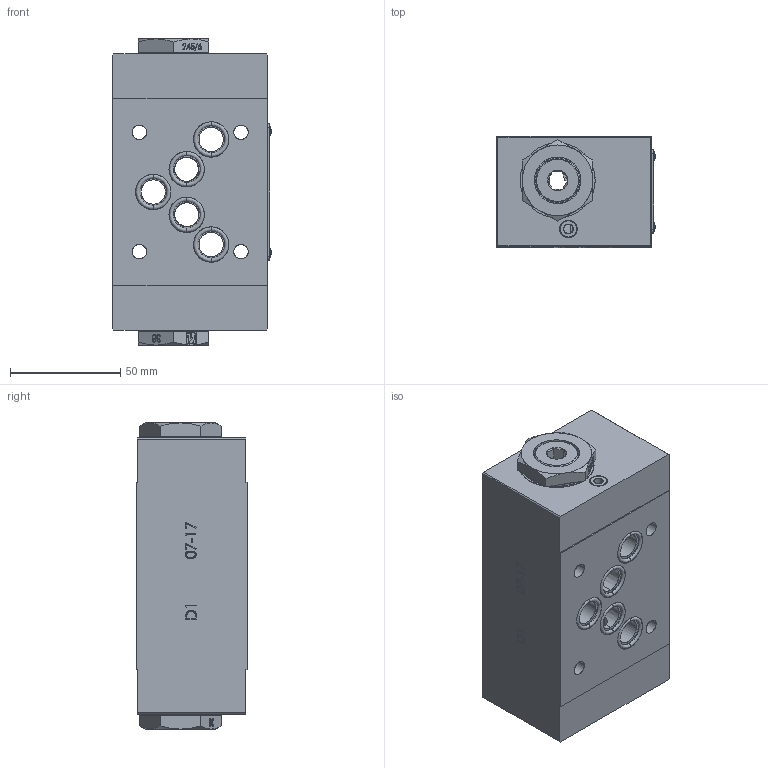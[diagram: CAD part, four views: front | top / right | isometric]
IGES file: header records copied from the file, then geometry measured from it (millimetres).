
Start section: SolidWorks IGES file using analytic representation for surfaces
Global section: file name: C:\Users\pc-te25\Desktop\357-6-AB-05.IGS; native system: SolidWorks 2018; preprocessor: SolidWorks 2018; author: pc-te25; date: 191204.085101; units: millimetre
Bounding box: 71.66 x 50.58 x 138.6 mm (x, y, z)
Surface area: 56128.3 mm2 (no closed solid volume)
Topology: 0 solids, 0 shells, 799 faces, 15720 edges, 15718 vertices
Faces by surface type: bspline 630, revolution 169
